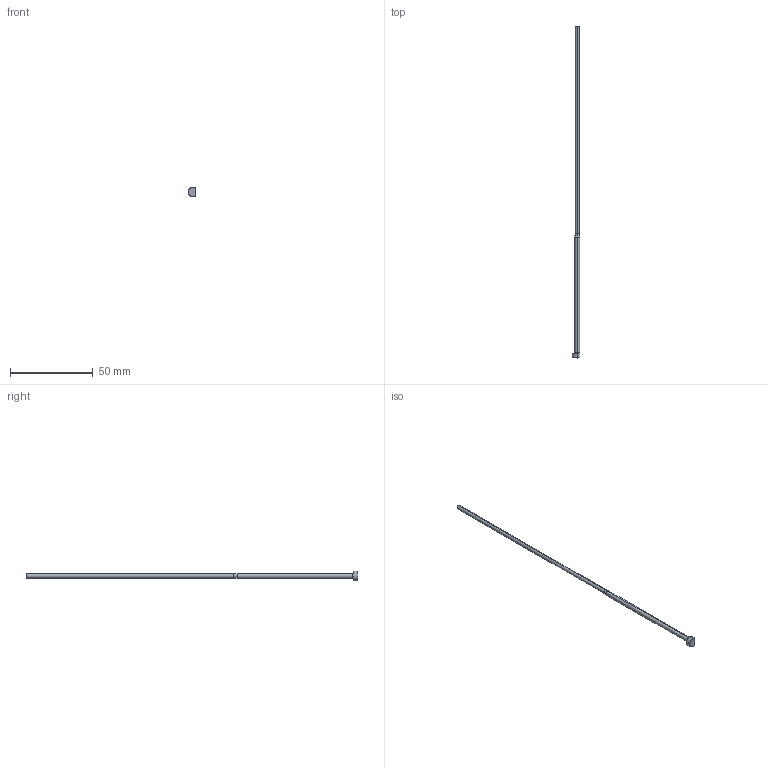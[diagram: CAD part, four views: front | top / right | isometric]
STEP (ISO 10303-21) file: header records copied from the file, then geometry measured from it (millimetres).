
FILE_DESCRIPTION (( 'STEP AP203' ), '1' );
FILE_NAME ('EPD025X3L200-75-K.step', '2022-04-05T12:24:28', ( 'Microsoft Corporation' ), ( 'MS' ), 'SwSTEP 2.0', 'SolidWorks 2019', '' );
FILE_SCHEMA (( 'CONFIG_CONTROL_DESIGN' ));
Length unit declared in the file: millimetre
Products named in the file (1): EPD025X3L200-75-K
Bounding box: 4.5 x 200 x 6 mm (x, y, z)
Volume: 1187.2 mm3; surface area: 1750.7 mm2
Topology: 1 solids, 1 shells, 22 faces, 49 edges, 29 vertices
Faces by surface type: cylinder 7, cone 6, torus 5, plane 4
Entity records: 700 total; most frequent: CARTESIAN_POINT 123, DIRECTION 117, ORIENTED_EDGE 98, AXIS2_PLACEMENT_3D 51, EDGE_CURVE 49, VERTEX_POINT 29, CIRCLE 28, ADVANCED_FACE 22
